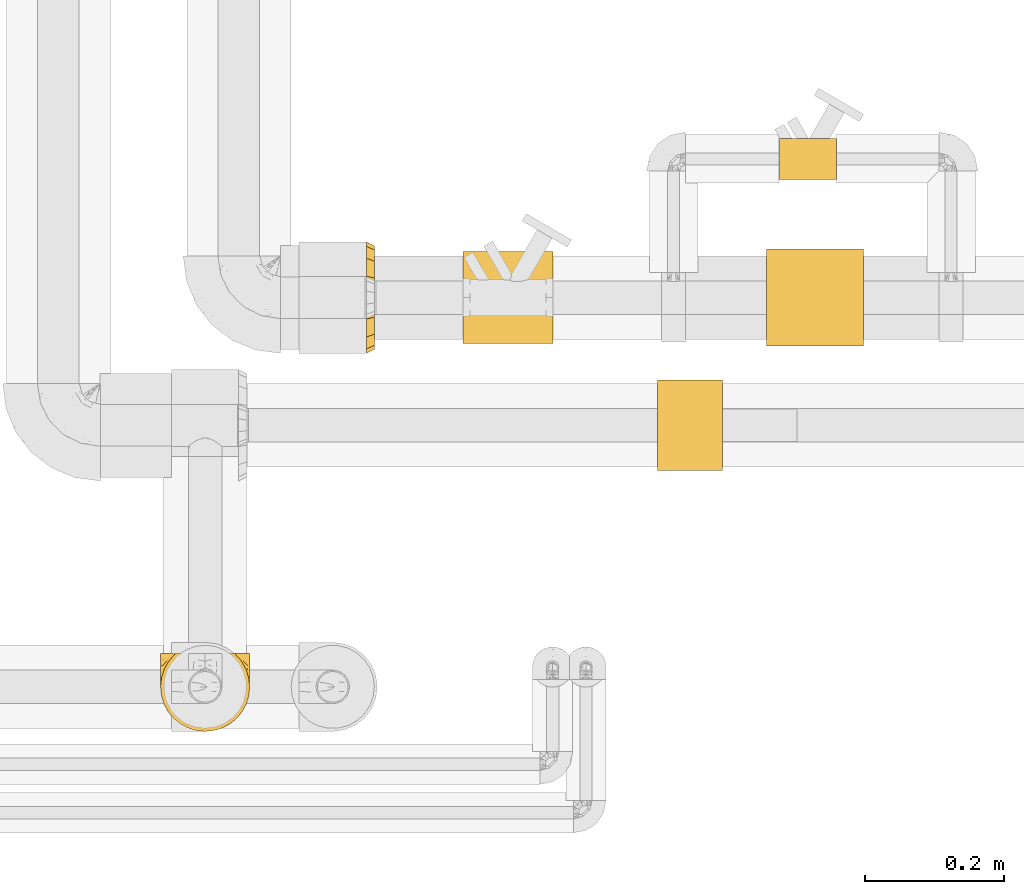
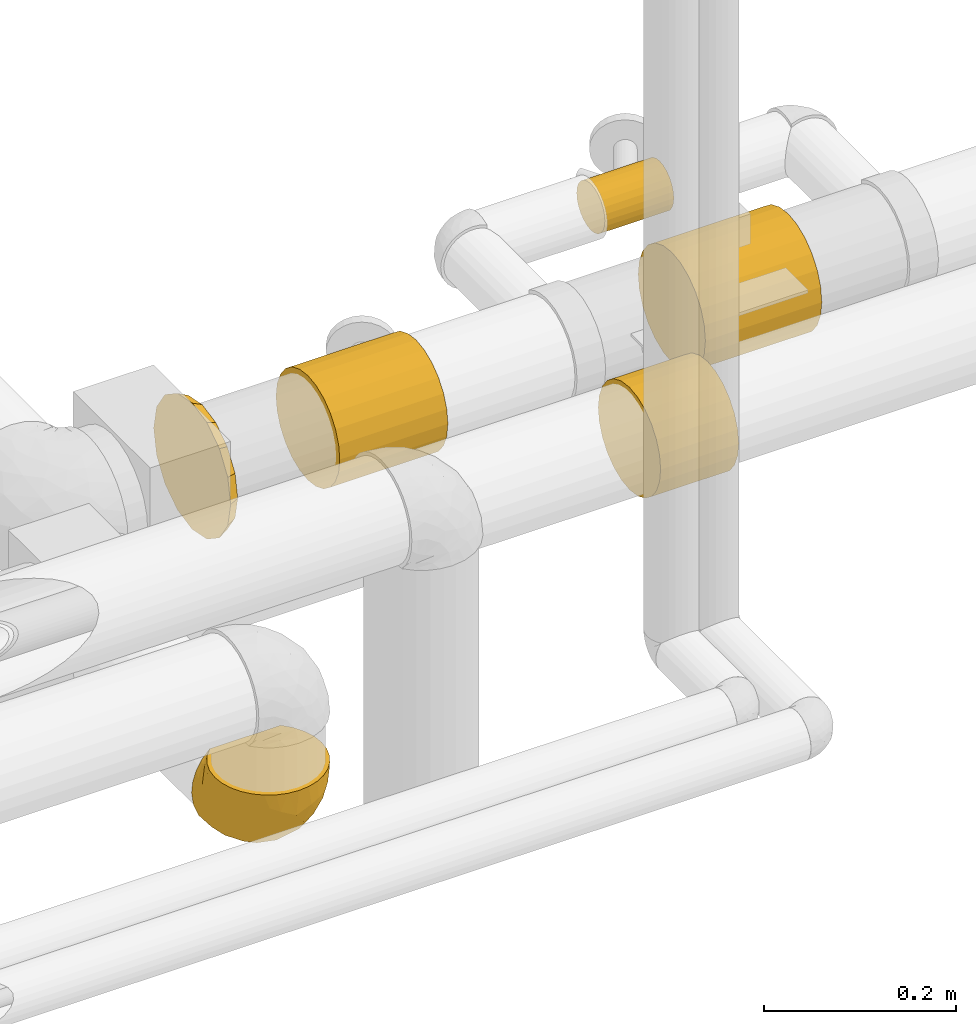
# One storey, part 23 of 83: 6 coverings.
"""IFC2X3 building model written with IfcOpenShell, lengths in millimetres."""

from ifc_helpers import new_model, entity, si_unit, converted_unit, derived_unit, direction, frame, origin_with_axes, place, context, subcontext, project, spatial, open_shell, surface_model, source, transform, mapped, element, save


model = new_model("IFC2X3")

# Units and contexts
model_context = context("Model", 3, precision=0.01, world=frame((0.0, 4.29681676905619e-09, 0.0)), true_north=direction((4.01073788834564e-13, 1.0)))
plan_context = context("Plan", 3, precision=0.01, world=frame((0.0, 4.29681676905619e-09, 0.0)), true_north=direction((4.01073788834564e-13, 1.0)))
body_context = subcontext(model_context, "Body", "Model", "MODEL_VIEW")
ifc_project = project(units=[converted_unit("PLANEANGLEUNIT", "DEGREE", entity("IfcPositiveLengthMeasure", 0.0174532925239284), si_unit("PLANEANGLEUNIT", "RADIAN"), dimensions=[0, 0, 0, 0, 0, 0, 0]), si_unit("AREAUNIT", "SQUARE_METRE"), si_unit("LENGTHUNIT", "METRE", prefix="MILLI"), si_unit("MASSUNIT", "GRAM", prefix="KILO"), si_unit("POWERUNIT", "WATT"), si_unit("PRESSUREUNIT", "PASCAL"), si_unit("FORCEUNIT", "NEWTON", prefix="KILO"), si_unit("ELECTRICVOLTAGEUNIT", "VOLT"), si_unit("ELECTRICCURRENTUNIT", "AMPERE"), si_unit("THERMODYNAMICTEMPERATUREUNIT", "DEGREE_CELSIUS"), si_unit("TIMEUNIT", "SECOND"), si_unit("VOLUMEUNIT", "CUBIC_METRE"), derived_unit("LINEARVELOCITYUNIT", [(si_unit("LENGTHUNIT", "METRE"), 1), (si_unit("TIMEUNIT", "SECOND"), -1)]), derived_unit("VOLUMETRICFLOWRATEUNIT", [(si_unit("VOLUMEUNIT", "CUBIC_METRE"), 1), (si_unit("TIMEUNIT", "SECOND"), -1)]), derived_unit("THERMALTRANSMITTANCEUNIT", [(si_unit("POWERUNIT", "WATT"), 1), (si_unit("THERMODYNAMICTEMPERATUREUNIT", "KELVIN"), -1), (si_unit("AREAUNIT", "SQUARE_METRE"), -1)]), derived_unit("SOUNDPRESSUREUNIT", [(si_unit("PRESSUREUNIT", "PASCAL"), 1)])], contexts=[model_context, plan_context])

# Site, building, storey
site_placement = place(None, frame((0.0, -4.29681676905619e-09, 0.0), z_axis=(0.0, 0.0, 1.0), x_axis=(1.0, 0.0, 0.0)))
site = spatial("IfcSite", under=ifc_project, at=site_placement, Name="ENGM", CompositionType="ELEMENT")
building_placement = place(site_placement, frame((0.0, 4.29681676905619e-09, 0.0), z_axis=(0.0, 0.0, 1.0), x_axis=(1.0, 0.0, 0.0)))
building = spatial("IfcBuilding", under=site, at=building_placement, Name="TI", CompositionType="ELEMENT")
storey_placement = place(building_placement, frame((0.0, 0.0, 204000.0), z_axis=(0.0, 0.0, 1.0), x_axis=(1.0, 0.0, 0.0)))
storey = spatial("IfcBuildingStorey", under=building, at=storey_placement, Name="Nivå D", CompositionType="ELEMENT", Elevation=204000.0)

# Coverings
shared_shape_1 = source(origin_with_axes(), body_context, "Body", "SurfaceModel", [
    surface_model("IfcShellBasedSurfaceModel", [(70.0, 18.11733, -67.61481), (70.0, 35.0, -60.62178), (70.0, 49.49747, -49.49747), (70.0, 60.62178, -35.0), (70.0, 67.61481, -18.11733), (70.0, 67.61481, 18.11733), (70.0, 60.62178, 35.0), (70.0, 49.49747, 49.49747), (70.0, 18.11733, 67.61481), (70.0, 0.0, 70.0), (70.0, 35.0, 60.62178), (70.0, -70.0, 0.0), (70.0, -60.62178, 35.0), (70.0, -67.61481, 18.11733), (70.0, -49.49747, 49.49747), (70.0, -18.11733, 67.61481), (70.0, -35.0, 60.62178), (-70.0, 49.49747, 49.49747), (-70.0, 18.11733, 67.61481), (-70.0, 35.0, 60.62178), (-70.0, 60.62178, 35.0), (-70.0, 67.61481, 18.11733), (-70.0, -18.11733, 67.61481), (-70.0, -49.49747, 49.49747), (-70.0, -35.0, 60.62178), (-70.0, -60.62178, 35.0), (-70.0, -70.0, 0.0), (-70.0, -67.61481, 18.11733), (-70.0, 67.61481, -18.11733), (-70.0, 49.49747, -49.49747), (-70.0, 60.62178, -35.0), (-70.0, 35.0, -60.62178), (-70.0, 18.11733, -67.61481), (-70.0, -35.0, -60.62178), (-70.0, 0.0, -70.0), (-70.0, -18.11733, -67.61481), (-70.0, -49.49747, -49.49747), (-70.0, 70.0, 0.0), (-70.0, 0.0, 70.0), (70.0, -67.61481, -18.11733), (-70.0, -67.61481, -18.11733), (-70.0, -60.62178, -35.0), (70.0, -60.62178, -35.0), (70.0, -49.49747, -49.49747), (70.0, -35.0, -60.62178), (70.0, -18.11733, -67.61481), (70.0, 0.0, -70.0), (70.0, 70.0, 0.0)], [open_shell([[[0, 1, 2]], [[0, 2, 3]], [[4, 0, 3]], [[5, 6, 7]], [[8, 9, 7]], [[8, 7, 10]], [[11, 12, 13]], [[14, 15, 16]], [[15, 14, 12]], [[17, 18, 19]], [[17, 20, 21]], [[22, 23, 24]], [[23, 22, 25]], [[25, 26, 27]], [[25, 21, 28]], [[29, 28, 30]], [[29, 31, 32]], [[29, 32, 28]], [[33, 34, 35]], [[34, 33, 36]], [[28, 21, 37]], [[17, 7, 6]], [[10, 19, 18]], [[8, 18, 38]], [[7, 19, 10]], [[10, 18, 8]], [[38, 9, 8]], [[19, 7, 17]], [[15, 22, 24]], [[16, 24, 23]], [[38, 22, 9]], [[9, 22, 15]], [[24, 16, 15]], [[23, 14, 16]], [[12, 25, 27]], [[13, 27, 26]], [[14, 25, 12]], [[12, 27, 13]], [[26, 11, 13]], [[25, 14, 23]], [[39, 40, 41]], [[42, 41, 36]], [[26, 40, 11]], [[11, 40, 39]], [[41, 42, 39]], [[36, 43, 42]], [[44, 33, 35]], [[45, 35, 34]], [[43, 33, 44]], [[44, 35, 45]], [[34, 46, 45]], [[33, 43, 36]], [[0, 32, 31]], [[1, 31, 29]], [[34, 32, 46]], [[46, 32, 0]], [[31, 1, 0]], [[29, 2, 1]], [[3, 30, 28]], [[4, 28, 37]], [[2, 30, 3]], [[3, 28, 4]], [[37, 47, 4]], [[30, 2, 29]], [[46, 44, 45]], [[43, 39, 42]], [[40, 36, 41]], [[20, 17, 6]], [[5, 47, 21]], [[21, 6, 5]], [[6, 21, 20]], [[47, 37, 21]], [[0, 4, 46]], [[46, 4, 47]], [[44, 46, 43]], [[39, 43, 46]], [[46, 47, 39]], [[47, 5, 39]], [[39, 7, 12]], [[15, 7, 9]], [[39, 12, 11]], [[7, 15, 12]], [[39, 5, 7]], [[21, 38, 18]], [[17, 21, 18]], [[38, 21, 22]], [[25, 22, 21]], [[25, 40, 26]], [[40, 25, 28]], [[40, 28, 32]], [[36, 40, 34]], [[40, 32, 34]]])]),
])
covering_1_placement = place(storey_placement, frame((609447.73353, 698092.0, 5915.24411), z_axis=(0.0, 0.0, 1.0), x_axis=(1.0, 0.0, 0.0)))
element("IfcCovering", 1, at=covering_1_placement, inside=storey, Name="BI11T - Rørskål m/Al.folie - varme 60-25", PredefinedType="INSULATION", context=body_context, shape_type="MappedRepresentation", body=[
    mapped(shared_shape_1, transform((0.0, 0.0, 0.0), scale=1.0)),
])
shared_shape_2 = source(origin_with_axes(), body_context, "Body", "SurfaceModel", [
    surface_model("IfcShellBasedSurfaceModel", [(41.5, 25.41785, -14.675), (41.5, 14.675, -25.41785), (41.5, 20.75358, -20.75358), (41.5, -20.75358, 20.75358), (41.5, -7.59634, 28.34992), (41.5, -14.675, 25.41785), (41.5, 28.34992, 7.59634), (41.5, -29.35, 0.0), (41.5, -28.34992, -7.59634), (-41.5, -7.59634, 28.34992), (-41.5, -20.75358, 20.75358), (-41.5, -14.675, 25.41785), (-41.5, 14.675, -25.41785), (-41.5, 25.41785, -14.675), (-41.5, 20.75358, -20.75358), (-41.5, 25.41785, 14.675), (-41.5, 20.75358, 20.75358), (41.5, 25.41785, 14.675), (41.5, 29.35, 0.0), (-41.5, 29.35, 0.0), (-41.5, 28.34992, 7.59634), (41.5, 20.75358, 20.75358), (41.5, 14.675, 25.41785), (-41.5, 14.675, 25.41785), (-41.5, 7.59634, 28.34992), (41.5, 7.59634, 28.34992), (-41.5, 0.0, 29.35), (41.5, 0.0, 29.35), (41.5, -25.41785, 14.675), (-41.5, -25.41785, 14.675), (-41.5, -28.34992, 7.59634), (41.5, -28.34992, 7.59634), (-41.5, -29.35, 0.0), (-41.5, -28.34992, -7.59634), (-41.5, -25.41785, -14.675), (41.5, -25.41785, -14.675), (-41.5, -20.75358, -20.75358), (41.5, -20.75358, -20.75358), (41.5, -14.675, -25.41785), (-41.5, -14.675, -25.41785), (-41.5, -7.59634, -28.34992), (41.5, -7.59634, -28.34992), (-41.5, 0.0, -29.35), (41.5, 0.0, -29.35), (41.5, 7.59634, -28.34992), (-41.5, 7.59634, -28.34992), (-41.5, 28.34992, -7.59634), (41.5, 28.34992, -7.59634)], [open_shell([[[0, 1, 2]], [[3, 4, 5]], [[6, 7, 8]], [[9, 10, 11]], [[12, 13, 14]], [[15, 16, 17]], [[18, 19, 6]], [[20, 17, 6]], [[17, 20, 15]], [[19, 20, 6]], [[16, 21, 17]], [[22, 23, 24]], [[25, 24, 26]], [[21, 23, 22]], [[22, 24, 25]], [[26, 27, 25]], [[23, 21, 16]], [[4, 9, 11]], [[5, 11, 10]], [[26, 9, 27]], [[27, 9, 4]], [[11, 5, 4]], [[10, 3, 5]], [[28, 29, 30]], [[31, 30, 32]], [[3, 29, 28]], [[28, 30, 31]], [[32, 7, 31]], [[29, 3, 10]], [[8, 33, 34]], [[35, 34, 36]], [[32, 33, 7]], [[7, 33, 8]], [[34, 35, 8]], [[36, 37, 35]], [[38, 39, 40]], [[41, 40, 42]], [[37, 39, 38]], [[38, 40, 41]], [[42, 43, 41]], [[39, 37, 36]], [[44, 45, 12]], [[1, 12, 14]], [[42, 45, 43]], [[43, 45, 44]], [[12, 1, 44]], [[14, 2, 1]], [[0, 13, 46]], [[47, 46, 19]], [[2, 13, 0]], [[0, 46, 47]], [[19, 18, 47]], [[13, 2, 14]], [[1, 43, 44]], [[47, 1, 0]], [[25, 27, 21]], [[25, 21, 22]], [[4, 3, 28]], [[16, 26, 24]], [[16, 24, 23]], [[9, 16, 15]], [[16, 9, 26]], [[10, 9, 29]], [[12, 46, 13]], [[39, 42, 40]], [[1, 47, 8]], [[47, 6, 8]], [[1, 38, 41]], [[41, 43, 1]], [[37, 8, 35]], [[8, 37, 38]], [[8, 38, 1]], [[47, 18, 6]], [[17, 7, 6]], [[27, 17, 21]], [[4, 17, 27]], [[7, 28, 31]], [[7, 17, 28]], [[17, 4, 28]], [[9, 15, 33]], [[29, 32, 30]], [[33, 29, 9]], [[29, 33, 32]], [[15, 20, 33]], [[33, 20, 46]], [[33, 46, 12]], [[33, 12, 45]], [[33, 36, 34]], [[36, 33, 39]], [[42, 39, 33]], [[33, 45, 42]], [[46, 20, 19]]])]),
])
covering_2_placement = place(storey_placement, frame((609437.32456, 698292.0, 5915.20000000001), z_axis=(0.0, -1.0, 0.0), x_axis=(1.0, 0.0, 0.0)))
element("IfcCovering", 2, at=covering_2_placement, inside=storey, Name="BI11T - Rørskål m/Al.folie - varme 60-25", PredefinedType="INSULATION", context=body_context, shape_type="MappedRepresentation", body=[
    mapped(shared_shape_2, transform((0.0, 0.0, 0.0), scale=1.0)),
])
shared_shape_3 = source(origin_with_axes(), body_context, "Body", "SurfaceModel", [
    surface_model("IfcShellBasedSurfaceModel", [(65.0, 57.50409, -33.2), (65.0, 33.2, -57.50409), (65.0, 46.95189, -46.95189), (65.0, 64.13748, -17.18558), (65.0, 66.4, 0.0), (65.0, 0.0, -66.4), (65.0, -33.2, -57.50409), (65.0, -17.18558, -64.13748), (65.0, -46.95189, 46.95189), (65.0, -17.18558, 64.13748), (65.0, -33.2, 57.50409), (-65.0, -17.18558, 64.13748), (-65.0, -46.95189, 46.95189), (-65.0, -33.2, 57.50409), (-65.0, 66.4, 0.0), (-65.0, 64.13748, -17.18558), (-65.0, 57.50409, -33.2), (-65.0, 33.2, -57.50409), (-65.0, 46.95189, -46.95189), (-65.0, -33.2, -57.50409), (-65.0, 0.0, -66.4), (-65.0, -17.18558, -64.13748), (-65.0, 46.95189, 46.95189), (65.0, 46.95189, 46.95189), (65.0, 57.50409, 33.2), (65.0, 33.2, 57.50409), (-65.0, 33.2, 57.50409), (-65.0, 17.18558, 64.13748), (65.0, 17.18558, 64.13748), (-65.0, 0.0, 66.4), (65.0, 0.0, 66.4), (65.0, -57.50409, 33.2), (-65.0, -57.50409, 33.2), (-65.0, -64.13748, 17.18558), (65.0, -64.13748, 17.18558), (-65.0, -66.4, 0.0), (65.0, -66.4, 0.0), (65.0, -64.13748, -17.18558), (-65.0, -64.13748, -17.18558), (-65.0, -57.50409, -33.2), (65.0, -57.50409, -33.2), (-65.0, -46.95189, -46.95189), (65.0, -46.95189, -46.95189), (65.0, 17.18558, -64.13748), (-65.0, 17.18558, -64.13748), (65.0, 64.13748, 17.18558), (-65.0, 64.13748, 17.18558), (-65.0, 57.50409, 33.2)], [open_shell([[[0, 1, 2]], [[0, 3, 4]], [[5, 6, 7]], [[8, 9, 10]], [[11, 12, 13]], [[14, 15, 16]], [[17, 16, 18]], [[19, 20, 21]], [[22, 23, 24]], [[25, 26, 27]], [[28, 27, 29]], [[23, 26, 25]], [[25, 27, 28]], [[29, 30, 28]], [[26, 23, 22]], [[9, 11, 13]], [[10, 13, 12]], [[29, 11, 30]], [[30, 11, 9]], [[13, 10, 9]], [[12, 8, 10]], [[31, 32, 33]], [[34, 33, 35]], [[8, 32, 31]], [[31, 33, 34]], [[35, 36, 34]], [[32, 8, 12]], [[37, 38, 39]], [[40, 39, 41]], [[35, 38, 36]], [[36, 38, 37]], [[39, 40, 37]], [[41, 42, 40]], [[6, 19, 21]], [[7, 21, 20]], [[42, 19, 6]], [[6, 21, 7]], [[20, 5, 7]], [[19, 42, 41]], [[43, 44, 17]], [[1, 17, 18]], [[20, 44, 5]], [[5, 44, 43]], [[17, 1, 43]], [[18, 2, 1]], [[0, 16, 15]], [[3, 15, 14]], [[2, 16, 0]], [[0, 15, 3]], [[14, 4, 3]], [[16, 2, 18]], [[1, 5, 43]], [[34, 8, 31]], [[27, 11, 29]], [[12, 33, 32]], [[45, 46, 47]], [[24, 47, 22]], [[14, 46, 4]], [[4, 46, 45]], [[47, 24, 45]], [[5, 0, 6]], [[40, 36, 37]], [[42, 36, 40]], [[4, 24, 25]], [[25, 24, 23]], [[47, 26, 22]], [[35, 39, 38]], [[16, 20, 19]], [[5, 1, 0]], [[0, 28, 6]], [[28, 42, 6]], [[28, 0, 4]], [[28, 9, 42]], [[4, 25, 28]], [[9, 28, 30]], [[8, 34, 36]], [[8, 36, 42]], [[9, 8, 42]], [[4, 45, 24]], [[26, 19, 27]], [[19, 26, 47]], [[27, 19, 11]], [[12, 11, 35]], [[33, 12, 35]], [[35, 11, 19]], [[14, 47, 46]], [[47, 16, 19]], [[16, 17, 20]], [[44, 20, 17]], [[41, 39, 35]], [[35, 19, 41]], [[14, 16, 47]]])]),
])
covering_3_placement = place(storey_placement, frame((609005.27966, 698092.0, 5915.24411), z_axis=(0.0, -1.0, 0.0), x_axis=(1.0, 0.0, 0.0)))
element("IfcCovering", 3, at=covering_3_placement, inside=storey, Name="BI11T - Rørskål m/Al.folie - varme 60-25", PredefinedType="INSULATION", context=body_context, shape_type="MappedRepresentation", body=[
    mapped(shared_shape_3, transform((0.0, 0.0, 0.0), scale=1.0)),
])
shared_shape_4 = source(origin_with_axes(), body_context, "Body", "SurfaceModel", [
    surface_model("IfcShellBasedSurfaceModel", [(0.0, -30.69121, 74.09514), (0.0, 0.0, 80.2), (0.0, -56.70997, 56.70997), (0.0, -74.09514, 30.69121), (0.0, 30.69121, -74.09514), (0.0, 0.0, -80.2), (0.0, 56.70997, -56.70997), (12.0, 28.39511, 68.55186), (12.0, 0.0, 74.2), (12.0, -28.39511, 68.55186), (12.0, -68.55186, -28.39511), (12.0, -52.46732, -52.46732), (12.0, -68.55186, 28.39511), (0.0, -80.2, 0.0), (0.0, -74.09514, -30.69121), (0.0, -56.70997, -56.70997), (0.0, -30.69121, -74.09514), (0.0, 30.69121, 74.09514), (12.0, 17.95943, 70.62765), (0.0, 15.34561, 77.14757), (12.0, 52.46732, 52.46732), (0.0, 43.70059, 65.40255), (12.0, 40.43122, 60.50959), (12.0, 68.55186, 28.39511), (0.0, 65.40255, 43.70059), (12.0, 60.50959, 40.43122), (12.0, 71.37593, 14.19755), (12.0, 74.2, 0.0), (0.0, 80.2, 0.0), (0.0, 76.33878, 19.41167), (0.0, 56.70997, 56.70997), (0.0, 74.09514, 30.69121), (12.0, -70.62765, 17.95943), (12.0, -74.2, 0.0), (0.0, -77.14757, 15.34561), (12.0, -52.46732, 52.46732), (0.0, -65.40255, 43.70059), (12.0, -60.50959, 40.43122), (0.0, -43.70059, 65.40255), (12.0, -40.43122, 60.50959), (12.0, -14.19755, 71.37593), (0.0, -19.41167, 76.33878), (12.0, -17.95943, -70.62765), (12.0, -28.39511, -68.55186), (12.0, 0.0, -74.2), (0.0, -15.34561, -77.14757), (0.0, -43.70059, -65.40255), (12.0, -40.43122, -60.50959), (0.0, -65.40255, -43.70059), (12.0, -60.50959, -40.43122), (12.0, -71.37593, -14.19755), (0.0, -76.33878, -19.41167), (0.0, 74.09514, -30.69121), (12.0, 70.62765, -17.95943), (12.0, 68.55186, -28.39511), (0.0, 77.14757, -15.34561), (12.0, 52.46732, -52.46732), (0.0, 65.40255, -43.70059), (12.0, 60.50959, -40.43122), (12.0, 28.39511, -68.55186), (0.0, 43.70059, -65.40255), (12.0, 40.43122, -60.50959), (12.0, 14.19755, -71.37593), (0.0, 19.41167, -76.33878)], [open_shell([[[0, 1, 2]], [[3, 2, 1]], [[4, 5, 6]], [[7, 8, 9]], [[10, 11, 12]], [[3, 1, 13]], [[14, 13, 15]], [[16, 15, 13]], [[17, 18, 7]], [[8, 19, 1]], [[20, 21, 22]], [[17, 7, 22]], [[8, 18, 19]], [[23, 24, 25]], [[26, 27, 28]], [[29, 23, 26]], [[20, 30, 21]], [[25, 24, 30]], [[23, 29, 31]], [[18, 17, 19]], [[28, 29, 26]], [[23, 31, 24]], [[30, 20, 25]], [[17, 22, 21]], [[3, 32, 12]], [[33, 34, 13]], [[35, 36, 37]], [[3, 12, 37]], [[33, 32, 34]], [[9, 38, 39]], [[40, 8, 1]], [[41, 9, 40]], [[35, 2, 36]], [[39, 38, 2]], [[9, 41, 0]], [[32, 3, 34]], [[1, 41, 40]], [[9, 0, 38]], [[2, 35, 39]], [[3, 37, 36]], [[16, 42, 43]], [[44, 45, 5]], [[11, 46, 47]], [[16, 43, 47]], [[44, 42, 45]], [[10, 48, 49]], [[50, 33, 13]], [[51, 10, 50]], [[11, 15, 46]], [[49, 48, 15]], [[10, 51, 14]], [[42, 16, 45]], [[13, 51, 50]], [[10, 14, 48]], [[15, 11, 49]], [[16, 47, 46]], [[52, 53, 54]], [[27, 55, 28]], [[56, 57, 58]], [[52, 54, 58]], [[27, 53, 55]], [[59, 60, 61]], [[62, 44, 5]], [[63, 59, 62]], [[56, 6, 57]], [[61, 60, 6]], [[59, 63, 4]], [[53, 52, 55]], [[5, 63, 62]], [[59, 4, 60]], [[6, 56, 61]], [[52, 58, 57]], [[23, 20, 54]], [[23, 54, 27]], [[54, 43, 56]], [[17, 30, 28]], [[31, 28, 30]], [[52, 6, 5]], [[5, 28, 52]], [[17, 28, 1]], [[1, 28, 13]], [[5, 13, 28]], [[13, 5, 16]], [[9, 35, 7]], [[12, 7, 35]], [[20, 7, 54]], [[12, 54, 7]], [[11, 43, 12]], [[12, 43, 54]], [[56, 43, 59]], [[43, 44, 59]], [[10, 12, 33]]])]),
])
covering_4_placement = place(storey_placement, frame((608801.17351, 698092.0, 5915.24411), z_axis=(0.0, 0.0, 1.0), x_axis=(1.0, 0.0, 0.0)))
element("IfcCovering", 4, at=covering_4_placement, inside=storey, Name="BI11T - Rørskål m/Al.folie - varme 60-25", PredefinedType="INSULATION", context=body_context, shape_type="MappedRepresentation", body=[
    mapped(shared_shape_4, transform((0.0, 0.0, 0.0), scale=1.0)),
])
shared_shape_5 = source(origin_with_axes(), body_context, "Body", "SurfaceModel", [
    surface_model("IfcShellBasedSurfaceModel", [(35.67206, 48.4, 53.37737), (12.52953, 48.4, 62.96547), (24.57409, 48.4, 59.31066), (53.38045, 48.4, 35.66746), (45.39837, 48.4, 45.39414), (59.31225, 48.4, 24.57023), (62.96584, 48.4, 12.52767), (-47.9758, 48.4, -42.66103), (-13.43483, 48.4, 62.77854), (0.0, 48.4, 64.2), (-26.28736, 48.4, 58.57145), (-37.97393, 48.4, 51.76505), (-47.9758, 48.4, 42.66103), (62.96547, 48.4, -12.52953), (53.37737, 48.4, -35.67206), (59.31066, 48.4, -24.57409), (45.39414, 48.4, -45.39837), (35.66746, 48.4, -53.38045), (-26.30165, 48.4, -58.56503), (-37.98609, 48.4, -51.75613), (-13.44957, 48.4, -62.77538), (12.52767, 48.4, -62.96584), (0.0, 48.4, -64.2), (24.57023, 48.4, -59.31225), (64.2, 48.4, 0.0), (-48.4, 47.9758, -42.66103), (-48.4, 37.97735, -51.76254), (-48.4, 0.0, -64.2), (-48.4, 26.29451, -58.56824), (-48.4, 13.44543, -62.77627), (-48.4, 0.0, 64.2), (-48.4, 37.97735, 51.76254), (-48.4, 47.9758, 42.66103), (-48.4, 26.29451, 58.56824), (-48.4, 13.44543, 62.77627), (-48.4, -32.1, -55.59883), (-48.4, -62.01244, -16.61618), (-48.4, -45.39626, -45.39626), (-48.4, -55.59883, -32.1), (-48.4, -16.61618, 62.01244), (-48.4, -32.1, 55.59883), (-48.4, -62.01244, 16.61618), (-48.4, -45.39626, 45.39626), (-48.4, -55.59883, 32.1), (-48.4, -64.2, 0.0), (-48.4, -16.61618, -62.01244), (-48.10004, 48.10004, 42.66103), (-48.10004, 48.10004, -42.66103), (-1.37629, 41.48093, -64.2), (-37.07461, 27.21182, -59.39278), (-44.97037, 35.57949, -53.73654), (-41.27827, 36.89498, -53.90532), (-37.00016, 45.60229, -52.70243), (-29.31531, 19.83775, -62.64408), (-14.17603, 14.17603, -64.2), (-22.02708, 8.93013, -64.2), (-39.73832, 21.3332, -61.01146), (-41.48093, 1.37629, -64.2), (-48.28795, 48.02221, -42.66103), (-38.16189, 38.88556, -54.19101), (-29.87812, 3.68423, -64.2), (-48.02221, 48.28795, -42.66103), (-21.33925, 39.73822, -61.00958), (-25.79325, 31.12393, -61.02233), (-36.96569, 42.42308, -53.49343), (-3.68423, 29.87812, -64.2), (-8.93013, 22.02708, -64.2), (-48.194, 48.06112, -42.66103), (-48.06112, 48.194, -42.66103), (8.48911, 18.24586, -62.1777), (16.99418, 33.64238, -61.43484), (-30.49395, -9.53365, -63.02284), (-38.64472, 1.94045, -64.2), (-21.95352, -19.60701, -59.31307), (-3.81793, -4.30592, -60.79427), (-3.0225, -24.9528, -51.85283), (20.49703, -8.14014, -49.62828), (15.0359, 4.70894, -57.46464), (35.23599, 5.50194, -45.19577), (-4.14099, -40.52829, -39.08248), (-26.35487, -36.2593, -50.93329), (25.09274, 20.34784, -56.61889), (36.99279, 25.05456, -50.11492), (29.14245, 35.16082, -56.61889), (-13.60469, -58.68896, 0.0), (-25.59283, -60.68938, -12.10735), (2.08894, -50.69012, -13.28018), (3.21553, 6.72208, -61.64201), (7.54281, -9.00849, -55.79479), (57.83799, 20.52552, -18.64159), (-17.95481, -54.92083, -24.56827), (-35.94397, -20.77355, -60.35428), (58.68896, 13.60469, 0.0), (-27.46493, -48.70213, -39.08248), (-1.84212, 39.13906, -64.2), (14.88455, -31.56029, -35.37693), (6.27929, -29.0505, -44.36228), (46.41546, 23.5232, -40.73128), (28.68519, -28.68518, -21.15353), (46.21866, 2.8391, -30.26881), (48.16466, -5.97091, -15.01547), (42.69531, -17.78462, 0.0), (29.68658, -15.30552, -37.126), (17.78462, -42.69531, 0.0), (53.29042, 22.17712, -30.26796), (-17.5789, -6.59656, -62.50752), (3.72961, -44.69, -26.90073), (27.68271, -13.41396, 40.72682), (39.69532, -10.61595, 28.27919), (35.06522, 5.93736, 45.5463), (-26.3805, -60.9583, 11.54664), (-4.25508, -53.97258, 11.91279), (10.97566, -43.46468, 20.06845), (-8.92303, -51.81813, 24.56827), (-30.73003, -57.85383, 24.56827), (58.76223, 24.31789, 18.63869), (-23.23629, -47.69313, 39.08248), (4.27109, -36.84856, 37.91588), (-9.23761, -29.82718, 50.93329), (6.78942, 17.28417, 62.43347), (16.45901, 31.43285, 61.43395), (-3.68423, 29.87812, 64.2), (22.53752, 14.39046, 56.6166), (-30.61027, -9.1573, 63.09805), (-27.71305, -21.57442, 59.31307), (48.93861, -4.26149, 15.61988), (49.80053, 11.17603, 30.26452), (-29.85423, -37.09409, 50.93329), (-22.02708, 8.93013, 64.2), (-29.87812, 3.68423, 64.2), (-18.62042, -11.95946, 61.35313), (46.66938, 22.58996, 40.13183), (55.14267, 30.85344, 30.26452), (18.23226, -5.38984, 52.2997), (28.72076, -28.72075, 21.00884), (37.8297, 25.84287, 49.62462), (27.80973, 28.88783, 56.61705), (-38.64472, 1.94045, 64.2), (-1.84212, 39.13906, 64.2), (-8.93013, 22.02708, 64.2), (-9.69913, -19.09497, 57.07097), (-6.23507, -7.1743, 60.54265), (5.38501, -18.55002, 52.1248), (10.52262, 4.05869, 58.98621), (26.6042, -23.81792, 31.88851), (-2.36811, 7.49373, 62.83226), (-14.17603, 14.17603, 64.2), (-41.48093, 1.37629, 64.2), (-37.07461, 27.21182, 59.39278), (-39.73832, 21.3332, 61.01146), (-29.31531, 19.83774, 62.64408), (-1.37629, 41.48093, 64.2), (-21.32368, 39.73896, 61.01436), (-48.28795, 48.02221, 42.66103), (-44.97037, 35.57949, 53.73654), (-41.27827, 36.89498, 53.90532), (-25.79549, 31.12875, 61.0208), (-38.17194, 38.89834, 54.1808), (-48.194, 48.06112, 42.66103), (-34.13452, 44.98258, 54.62478), (-36.95405, 42.42265, 53.5004), (-48.02221, 48.28795, 42.66103), (-48.06112, 48.194, 42.66103)], [open_shell([[[0, 1, 2]], [[3, 0, 4]], [[3, 5, 6]], [[3, 6, 0]], [[7, 1, 0]], [[8, 9, 10]], [[7, 9, 1]], [[10, 7, 11]], [[7, 10, 9]], [[7, 12, 11]], [[0, 6, 7]], [[6, 13, 14]], [[14, 13, 15]], [[7, 14, 16]], [[14, 7, 6]], [[7, 16, 17]], [[7, 18, 19]], [[18, 7, 20]], [[21, 22, 7]], [[20, 7, 22]], [[7, 23, 21]], [[7, 17, 23]], [[13, 6, 24]], [[25, 26, 27]], [[28, 29, 27]], [[28, 27, 26]], [[25, 27, 30]], [[31, 32, 33]], [[33, 30, 34]], [[33, 32, 25]], [[25, 30, 33]], [[27, 35, 30]], [[35, 36, 30]], [[37, 38, 36]], [[37, 36, 35]], [[30, 36, 39]], [[40, 41, 42]], [[41, 40, 39]], [[42, 41, 43]], [[39, 36, 41]], [[36, 44, 41]], [[35, 27, 45]], [[25, 32, 46]], [[47, 25, 46]], [[12, 7, 46]], [[47, 46, 7]], [[20, 22, 48]], [[49, 50, 51]], [[18, 52, 19]], [[53, 54, 55]], [[56, 57, 29]], [[29, 28, 56]], [[50, 26, 58]], [[59, 53, 49]], [[53, 60, 56]], [[26, 25, 58]], [[61, 7, 52]], [[62, 63, 64]], [[57, 27, 29]], [[57, 56, 60]], [[7, 19, 52]], [[50, 28, 26]], [[63, 54, 53]], [[65, 62, 48]], [[63, 65, 66]], [[52, 18, 62]], [[48, 62, 20]], [[64, 61, 52]], [[62, 18, 20]], [[56, 49, 53]], [[51, 58, 67]], [[59, 64, 63]], [[59, 68, 64]], [[53, 59, 63]], [[47, 59, 51]], [[65, 63, 62]], [[28, 50, 56]], [[50, 49, 56]], [[55, 60, 53]], [[59, 49, 51]], [[58, 51, 50]], [[67, 47, 51]], [[66, 54, 63]], [[62, 64, 52]], [[68, 59, 47]], [[68, 61, 64]], [[69, 65, 70]], [[60, 71, 72]], [[73, 74, 75]], [[71, 45, 72]], [[76, 77, 78]], [[75, 79, 80]], [[69, 70, 81]], [[82, 81, 83]], [[84, 85, 86]], [[87, 88, 74]], [[15, 13, 89]], [[36, 85, 44]], [[36, 38, 90]], [[35, 91, 80]], [[13, 92, 89]], [[38, 93, 90]], [[93, 38, 37]], [[23, 70, 21]], [[94, 22, 21]], [[95, 79, 96]], [[16, 14, 97]], [[82, 16, 97]], [[45, 71, 91]], [[98, 99, 100]], [[83, 70, 23]], [[21, 70, 94]], [[100, 92, 101]], [[76, 78, 102]], [[86, 103, 84]], [[85, 36, 90]], [[99, 89, 100]], [[99, 104, 89]], [[82, 78, 81]], [[105, 74, 73]], [[104, 14, 15]], [[98, 101, 103]], [[13, 24, 92]], [[97, 104, 99]], [[35, 80, 37]], [[106, 86, 90]], [[87, 66, 69]], [[17, 83, 23]], [[75, 80, 73]], [[81, 78, 77]], [[93, 80, 79]], [[73, 71, 105]], [[96, 102, 95]], [[69, 77, 87]], [[77, 69, 81]], [[17, 16, 82]], [[70, 83, 81]], [[82, 83, 17]], [[82, 97, 78]], [[97, 99, 78]], [[102, 78, 99]], [[99, 98, 102]], [[98, 106, 95]], [[92, 100, 89]], [[98, 100, 101]], [[80, 93, 37]], [[90, 93, 79]], [[45, 27, 72]], [[55, 105, 60]], [[71, 73, 91]], [[74, 55, 54]], [[60, 105, 71]], [[55, 74, 105]], [[80, 91, 73]], [[35, 45, 91]], [[88, 77, 76]], [[77, 88, 87]], [[96, 88, 76]], [[75, 74, 88]], [[106, 90, 79]], [[98, 103, 86]], [[95, 106, 79]], [[98, 86, 106]], [[96, 79, 75]], [[98, 95, 102]], [[88, 96, 75]], [[102, 96, 76]], [[74, 54, 87]], [[14, 104, 97]], [[15, 89, 104]], [[70, 65, 94]], [[86, 85, 90]], [[44, 85, 84]], [[66, 87, 54]], [[66, 65, 69]], [[107, 108, 109]], [[44, 84, 110]], [[111, 112, 113]], [[110, 113, 114]], [[5, 115, 6]], [[116, 117, 118]], [[119, 120, 121]], [[122, 120, 119]], [[123, 39, 124]], [[101, 92, 125]], [[115, 126, 125]], [[127, 124, 40]], [[40, 42, 127]], [[128, 129, 130]], [[131, 126, 132]], [[43, 114, 116]], [[109, 133, 107]], [[40, 124, 39]], [[103, 101, 134]], [[108, 125, 126]], [[131, 4, 135]], [[43, 116, 42]], [[132, 5, 3]], [[135, 4, 0]], [[120, 2, 1]], [[115, 5, 132]], [[24, 6, 92]], [[136, 0, 2]], [[39, 123, 137]], [[113, 110, 111]], [[123, 130, 129]], [[120, 122, 136]], [[41, 114, 43]], [[109, 126, 131]], [[1, 138, 120]], [[108, 134, 125]], [[119, 121, 139]], [[136, 122, 135]], [[140, 141, 130]], [[92, 6, 115]], [[107, 142, 117]], [[115, 125, 92]], [[133, 122, 143]], [[108, 144, 134]], [[134, 101, 125]], [[117, 116, 113]], [[127, 116, 118]], [[117, 113, 112]], [[142, 107, 133]], [[3, 4, 131]], [[115, 132, 126]], [[131, 132, 3]], [[131, 135, 109]], [[135, 122, 109]], [[133, 109, 122]], [[143, 122, 119]], [[141, 140, 142]], [[116, 127, 42]], [[124, 127, 118]], [[145, 139, 146]], [[119, 145, 143]], [[137, 123, 129]], [[137, 30, 39]], [[145, 128, 141]], [[130, 123, 124]], [[140, 124, 118]], [[128, 130, 141]], [[124, 140, 130]], [[142, 140, 118]], [[117, 142, 118]], [[142, 133, 143]], [[109, 108, 126]], [[144, 108, 107]], [[139, 145, 119]], [[142, 143, 141]], [[128, 145, 146]], [[141, 143, 145]], [[107, 117, 144]], [[112, 144, 117]], [[110, 114, 41]], [[116, 114, 113]], [[44, 110, 41]], [[110, 84, 111]], [[84, 103, 111]], [[112, 103, 134]], [[103, 112, 111]], [[112, 134, 144]], [[0, 136, 135]], [[2, 120, 136]], [[138, 1, 9]], [[138, 121, 120]], [[34, 30, 147]], [[148, 149, 150]], [[121, 151, 152]], [[31, 153, 32]], [[154, 155, 153]], [[150, 156, 157]], [[154, 33, 149]], [[155, 158, 153]], [[159, 160, 152]], [[34, 149, 33]], [[150, 149, 129]], [[156, 150, 146]], [[152, 151, 8]], [[31, 154, 153]], [[129, 149, 147]], [[10, 152, 8]], [[157, 156, 160]], [[160, 159, 161]], [[8, 151, 9]], [[152, 160, 156]], [[150, 129, 128]], [[121, 152, 156]], [[121, 156, 139]], [[11, 12, 161]], [[34, 147, 149]], [[159, 10, 11]], [[157, 162, 46]], [[157, 46, 155]], [[160, 162, 157]], [[157, 155, 148]], [[33, 154, 31]], [[154, 149, 148]], [[157, 148, 150]], [[128, 146, 150]], [[154, 148, 155]], [[155, 46, 158]], [[156, 146, 139]], [[10, 159, 152]], [[161, 159, 11]], [[160, 161, 162]]])]),
])
covering_5_placement = place(storey_placement, frame((608568.77351, 697531.0, 5915.24411), z_axis=(-1.0, 0.0, 0.0), x_axis=(0.0, -1.0, 0.0)))
element("IfcCovering", 5, at=covering_5_placement, inside=storey, Name="BI11T - Rørskål m/Al.folie - varme 60-25", PredefinedType="INSULATION", context=body_context, shape_type="MappedRepresentation", body=[
    mapped(shared_shape_5, transform((0.0, 0.0, 0.0), scale=1.0)),
])
shared_shape_6 = source(origin_with_axes(), body_context, "Body", "SurfaceModel", [
    surface_model("IfcShellBasedSurfaceModel", [(47.0, 56.29165, -32.5), (47.0, 32.5, -56.29165), (47.0, 45.96194, -45.96194), (47.0, 0.0, -65.0), (47.0, -32.5, -56.29165), (47.0, -16.82324, -62.78518), (47.0, 62.78518, 16.82324), (47.0, 56.29165, 32.5), (47.0, 45.96194, 45.96194), (47.0, -45.96194, 45.96194), (47.0, -16.82324, 62.78518), (47.0, -32.5, 56.29165), (-47.0, 45.96194, 45.96194), (-47.0, 56.29165, 32.5), (-47.0, 62.78518, 16.82324), (-47.0, -16.82324, 62.78518), (-47.0, -45.96194, 45.96194), (-47.0, -32.5, 56.29165), (-47.0, 32.5, -56.29165), (-47.0, 62.78518, -16.82324), (-47.0, 56.29165, -32.5), (-47.0, 45.96194, -45.96194), (-47.0, -32.5, -56.29165), (-47.0, 0.0, -65.0), (-47.0, -16.82324, -62.78518), (-47.0, 65.0, 0.0), (47.0, 65.0, 0.0), (47.0, 32.5, 56.29165), (-47.0, 32.5, 56.29165), (-47.0, 16.82324, 62.78518), (47.0, 16.82324, 62.78518), (-47.0, 0.0, 65.0), (47.0, 0.0, 65.0), (47.0, -56.29165, 32.5), (-47.0, -56.29165, 32.5), (-47.0, -62.78518, 16.82324), (47.0, -62.78518, 16.82324), (-47.0, -65.0, 0.0), (47.0, -65.0, 0.0), (47.0, -62.78518, -16.82324), (-47.0, -62.78518, -16.82324), (-47.0, -56.29165, -32.5), (47.0, -56.29165, -32.5), (-47.0, -45.96194, -45.96194), (47.0, -45.96194, -45.96194), (47.0, 16.82324, -62.78518), (-47.0, 16.82324, -62.78518), (47.0, 62.78518, -16.82324)], [open_shell([[[0, 1, 2]], [[3, 4, 5]], [[6, 7, 8]], [[9, 10, 11]], [[12, 13, 14]], [[15, 16, 17]], [[18, 19, 20]], [[18, 20, 21]], [[22, 23, 24]], [[14, 25, 19]], [[25, 14, 6]], [[26, 25, 6]], [[13, 7, 6]], [[7, 13, 12]], [[14, 13, 6]], [[12, 8, 7]], [[27, 28, 29]], [[30, 29, 31]], [[8, 28, 27]], [[27, 29, 30]], [[31, 32, 30]], [[28, 8, 12]], [[10, 15, 17]], [[11, 17, 16]], [[31, 15, 32]], [[32, 15, 10]], [[17, 11, 10]], [[16, 9, 11]], [[33, 34, 35]], [[36, 35, 37]], [[9, 34, 33]], [[33, 35, 36]], [[37, 38, 36]], [[34, 9, 16]], [[39, 40, 41]], [[42, 41, 43]], [[37, 40, 38]], [[38, 40, 39]], [[41, 42, 39]], [[43, 44, 42]], [[4, 22, 24]], [[5, 24, 23]], [[44, 22, 4]], [[4, 24, 5]], [[23, 3, 5]], [[22, 44, 43]], [[45, 46, 18]], [[1, 18, 21]], [[23, 46, 3]], [[3, 46, 45]], [[18, 1, 45]], [[21, 2, 1]], [[0, 20, 19]], [[47, 19, 25]], [[2, 20, 0]], [[0, 19, 47]], [[25, 26, 47]], [[20, 2, 21]], [[30, 8, 27]], [[12, 29, 28]], [[15, 31, 16]], [[4, 3, 44]], [[44, 39, 42]], [[47, 26, 6]], [[40, 43, 41]], [[23, 22, 43]], [[38, 33, 36]], [[34, 37, 35]], [[14, 19, 37]], [[6, 8, 32]], [[0, 45, 1]], [[18, 46, 19]], [[44, 0, 47]], [[0, 44, 45]], [[47, 6, 44]], [[44, 3, 45]], [[44, 6, 39]], [[30, 32, 8]], [[6, 32, 10]], [[33, 38, 9]], [[38, 39, 9]], [[6, 10, 9]], [[9, 39, 6]], [[12, 31, 29]], [[31, 12, 16]], [[16, 12, 14]], [[37, 34, 16]], [[14, 37, 16]], [[43, 37, 19]], [[23, 19, 46]], [[37, 43, 40]], [[19, 23, 43]]])]),
])
covering_6_placement = place(storey_placement, frame((609267.57456, 697908.0, 5915.24411), z_axis=(0.0, 0.0, 1.0), x_axis=(1.0, 0.0, 0.0)))
element("IfcCovering", 6, at=covering_6_placement, inside=storey, Name="BI11T - Rørskål m/Al.folie - varme 60-25", PredefinedType="INSULATION", context=body_context, shape_type="MappedRepresentation", body=[
    mapped(shared_shape_6, transform((0.0, 0.0, 0.0), scale=1.0)),
])

save(model, "model.ifc")
